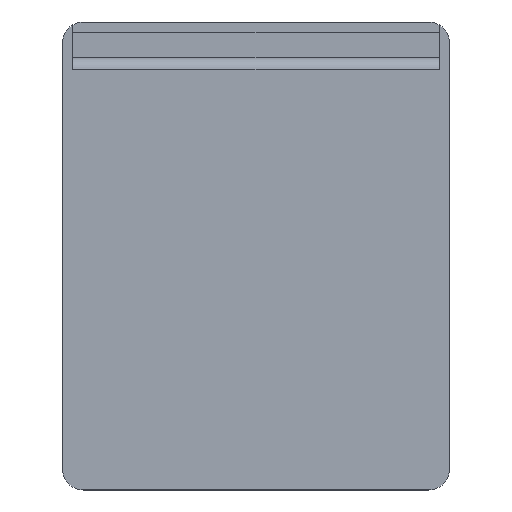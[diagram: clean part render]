
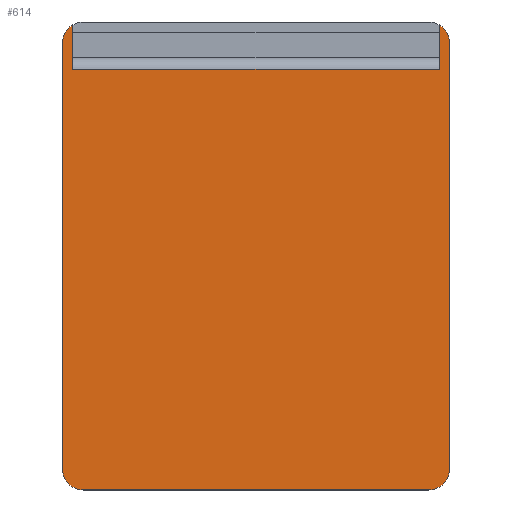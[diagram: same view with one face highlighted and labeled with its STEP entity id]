
A CAD part, front view. The second image highlights one B-rep face of the part: STEP entity #614.
In plain terms, the highlighted planar face has unit normal (0, -1, 0).
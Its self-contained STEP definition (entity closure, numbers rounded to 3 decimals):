
#18 = CARTESIAN_POINT ( 'NONE',  ( 37., -546., -40.75 ) ) ;
#22 = AXIS2_PLACEMENT_3D ( 'NONE', #183, #615, #244 ) ;
#27 = ORIENTED_EDGE ( 'NONE', *, *, #342, .T. ) ;
#36 = ORIENTED_EDGE ( 'NONE', *, *, #254, .F. ) ;
#46 = EDGE_LOOP ( 'NONE', ( #403, #27, #430, #36, #754, #765, #231, #781, #47, #585 ) ) ;
#47 = ORIENTED_EDGE ( 'NONE', *, *, #794, .F. ) ;
#54 = LINE ( 'NONE', #690, #370 ) ;
#90 = DIRECTION ( 'NONE',  ( -1., 0., 0. ) ) ;
#91 = EDGE_CURVE ( 'NONE', #692, #233, #521, .T. ) ;
#97 = LINE ( 'NONE', #579, #424 ) ;
#105 = DIRECTION ( 'NONE',  ( 0., 1., 0. ) ) ;
#121 = CIRCLE ( 'NONE', #180, 4. ) ;
#140 = VERTEX_POINT ( 'NONE', #645 ) ;
#145 = DIRECTION ( 'NONE',  ( 0., 1., 0. ) ) ;
#149 = VERTEX_POINT ( 'NONE', #18 ) ;
#159 = LINE ( 'NONE', #265, #439 ) ;
#163 = EDGE_CURVE ( 'NONE', #293, #149, #159, .T. ) ;
#180 = AXIS2_PLACEMENT_3D ( 'NONE', #515, #145, #570 ) ;
#183 = CARTESIAN_POINT ( 'NONE',  ( 33., -546., -40.75 ) ) ;
#190 = DIRECTION ( 'NONE',  ( 0., -1., 0. ) ) ;
#199 = EDGE_CURVE ( 'NONE', #601, #692, #97, .T. ) ;
#223 = LINE ( 'NONE', #307, #650 ) ;
#231 = ORIENTED_EDGE ( 'NONE', *, *, #560, .F. ) ;
#233 = VERTEX_POINT ( 'NONE', #590 ) ;
#238 = VECTOR ( 'NONE', #757, 1000. ) ;
#244 = DIRECTION ( 'NONE',  ( 0., 0., 1. ) ) ;
#254 = EDGE_CURVE ( 'NONE', #233, #140, #54, .T. ) ;
#256 = DIRECTION ( 'NONE',  ( 0., 0., 1. ) ) ;
#257 = CIRCLE ( 'NONE', #22, 4. ) ;
#264 = CARTESIAN_POINT ( 'NONE',  ( -35., -546., 35.701 ) ) ;
#265 = CARTESIAN_POINT ( 'NONE',  ( 37., -546., 40.75 ) ) ;
#280 = CARTESIAN_POINT ( 'NONE',  ( -33., -546., -40.75 ) ) ;
#287 = CARTESIAN_POINT ( 'NONE',  ( 35., -546., 44.214 ) ) ;
#293 = VERTEX_POINT ( 'NONE', #594 ) ;
#305 = LINE ( 'NONE', #264, #238 ) ;
#307 = CARTESIAN_POINT ( 'NONE',  ( 35., -546., 40.75 ) ) ;
#315 = VERTEX_POINT ( 'NONE', #287 ) ;
#329 = FACE_OUTER_BOUND ( 'NONE', #46, .T. ) ;
#342 = EDGE_CURVE ( 'NONE', #644, #344, #679, .T. ) ;
#344 = VERTEX_POINT ( 'NONE', #720 ) ;
#367 = EDGE_CURVE ( 'NONE', #140, #344, #487, .T. ) ;
#370 = VECTOR ( 'NONE', #526, 1000. ) ;
#373 = CARTESIAN_POINT ( 'NONE',  ( 33., -546., -44.75 ) ) ;
#403 = ORIENTED_EDGE ( 'NONE', *, *, #753, .F. ) ;
#406 = DIRECTION ( 'NONE',  ( 0., 0., -1. ) ) ;
#424 = VECTOR ( 'NONE', #90, 1000. ) ;
#430 = ORIENTED_EDGE ( 'NONE', *, *, #367, .F. ) ;
#439 = VECTOR ( 'NONE', #755, 1000. ) ;
#449 = CARTESIAN_POINT ( 'NONE',  ( 35., -546., 35.701 ) ) ;
#460 = DIRECTION ( 'NONE',  ( 0., 1., 0. ) ) ;
#468 = AXIS2_PLACEMENT_3D ( 'NONE', #280, #460, #406 ) ;
#474 = CARTESIAN_POINT ( 'NONE',  ( -33., -546., 40.75 ) ) ;
#487 = CIRCLE ( 'NONE', #577, 4. ) ;
#488 = PLANE ( 'NONE',  #558 ) ;
#515 = CARTESIAN_POINT ( 'NONE',  ( 33., -546., 40.75 ) ) ;
#521 = CIRCLE ( 'NONE', #468, 4. ) ;
#526 = DIRECTION ( 'NONE',  ( 0., 0., 1. ) ) ;
#532 = DIRECTION ( 'NONE',  ( 0., 0., 1. ) ) ;
#550 = CARTESIAN_POINT ( 'NONE',  ( 33., -546., 40.75 ) ) ;
#558 = AXIS2_PLACEMENT_3D ( 'NONE', #550, #190, #622 ) ;
#560 = EDGE_CURVE ( 'NONE', #149, #601, #257, .T. ) ;
#570 = DIRECTION ( 'NONE',  ( 0., 0., -1. ) ) ;
#577 = AXIS2_PLACEMENT_3D ( 'NONE', #474, #105, #532 ) ;
#579 = CARTESIAN_POINT ( 'NONE',  ( 33., -546., -44.75 ) ) ;
#585 = ORIENTED_EDGE ( 'NONE', *, *, #587, .F. ) ;
#587 = EDGE_CURVE ( 'NONE', #801, #315, #223, .T. ) ;
#590 = CARTESIAN_POINT ( 'NONE',  ( -37., -546., -40.75 ) ) ;
#594 = CARTESIAN_POINT ( 'NONE',  ( 37., -546., 40.75 ) ) ;
#595 = CARTESIAN_POINT ( 'NONE',  ( -35., -546., 40.75 ) ) ;
#601 = VERTEX_POINT ( 'NONE', #373 ) ;
#614 = ADVANCED_FACE ( 'NONE', ( #329 ), #488, .T. ) ;
#615 = DIRECTION ( 'NONE',  ( 0., 1., 0. ) ) ;
#622 = DIRECTION ( 'NONE',  ( 0., 0., -1. ) ) ;
#628 = CARTESIAN_POINT ( 'NONE',  ( -33., -546., -44.75 ) ) ;
#644 = VERTEX_POINT ( 'NONE', #683 ) ;
#645 = CARTESIAN_POINT ( 'NONE',  ( -37., -546., 40.75 ) ) ;
#650 = VECTOR ( 'NONE', #797, 1000. ) ;
#658 = VECTOR ( 'NONE', #256, 1000. ) ;
#679 = LINE ( 'NONE', #595, #658 ) ;
#683 = CARTESIAN_POINT ( 'NONE',  ( -35., -546., 35.701 ) ) ;
#690 = CARTESIAN_POINT ( 'NONE',  ( -37., -546., 40.75 ) ) ;
#692 = VERTEX_POINT ( 'NONE', #628 ) ;
#720 = CARTESIAN_POINT ( 'NONE',  ( -35., -546., 44.214 ) ) ;
#753 = EDGE_CURVE ( 'NONE', #644, #801, #305, .T. ) ;
#754 = ORIENTED_EDGE ( 'NONE', *, *, #91, .F. ) ;
#755 = DIRECTION ( 'NONE',  ( 0., 0., -1. ) ) ;
#757 = DIRECTION ( 'NONE',  ( 1., 0., 0. ) ) ;
#765 = ORIENTED_EDGE ( 'NONE', *, *, #199, .F. ) ;
#781 = ORIENTED_EDGE ( 'NONE', *, *, #163, .F. ) ;
#794 = EDGE_CURVE ( 'NONE', #315, #293, #121, .T. ) ;
#797 = DIRECTION ( 'NONE',  ( 0., 0., 1. ) ) ;
#801 = VERTEX_POINT ( 'NONE', #449 ) ;
